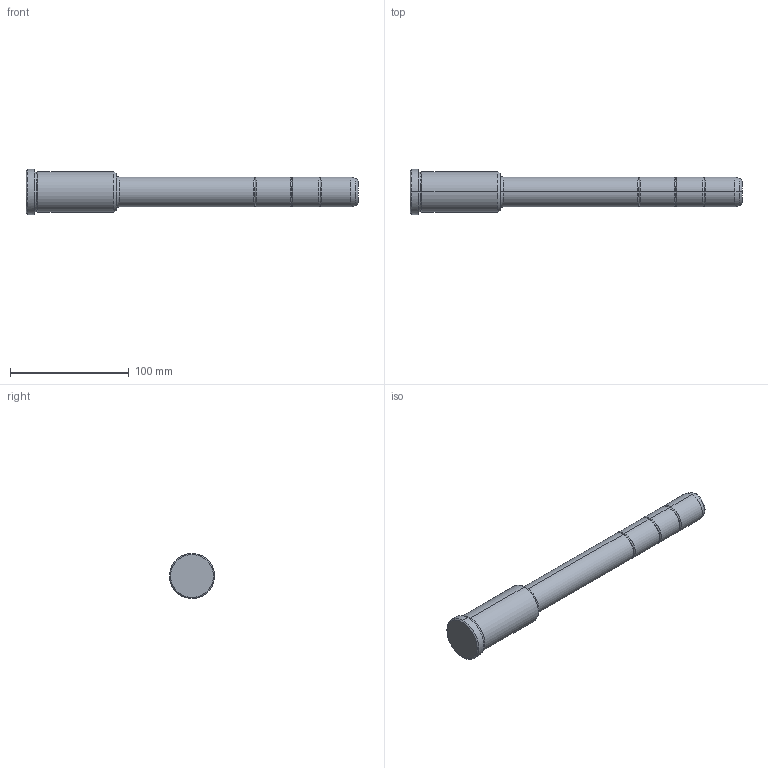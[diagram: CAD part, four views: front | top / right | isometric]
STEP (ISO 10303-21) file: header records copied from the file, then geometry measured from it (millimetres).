
FILE_DESCRIPTION(('CATIA V5 STEP Exchange'),'2;1');
FILE_NAME('C:\Users\Utente\Desktop\IO LAVORO\3D X SITO CF\X SITO\PLASTICA\351\351-25X76X280.stp','2021-09-07T11:28:13+00:00',('none'),('none'),'CATIA Version 5 Release 20 GA (IN-10)','CATIA V5 STEP AP203','none');
FILE_SCHEMA(('CONFIG_CONTROL_DESIGN'));
Length unit declared in the file: millimetre
Products named in the file (1): 351-25X76X280
Bounding box: 280 x 38 x 38 mm (x, y, z)
Volume: 169843.4 mm3; surface area: 26237.4 mm2
Topology: 1 solids, 1 shells, 42 faces, 118 edges, 80 vertices
Faces by surface type: torus 20, cylinder 12, cone 6, plane 4
Entity records: 1472 total; most frequent: CARTESIAN_POINT 353, ORIENTED_EDGE 236, DIRECTION 194, AXIS2_PLACEMENT_3D 135, EDGE_CURVE 118, CIRCLE 92, VERTEX_POINT 80, EDGE_LOOP 44
